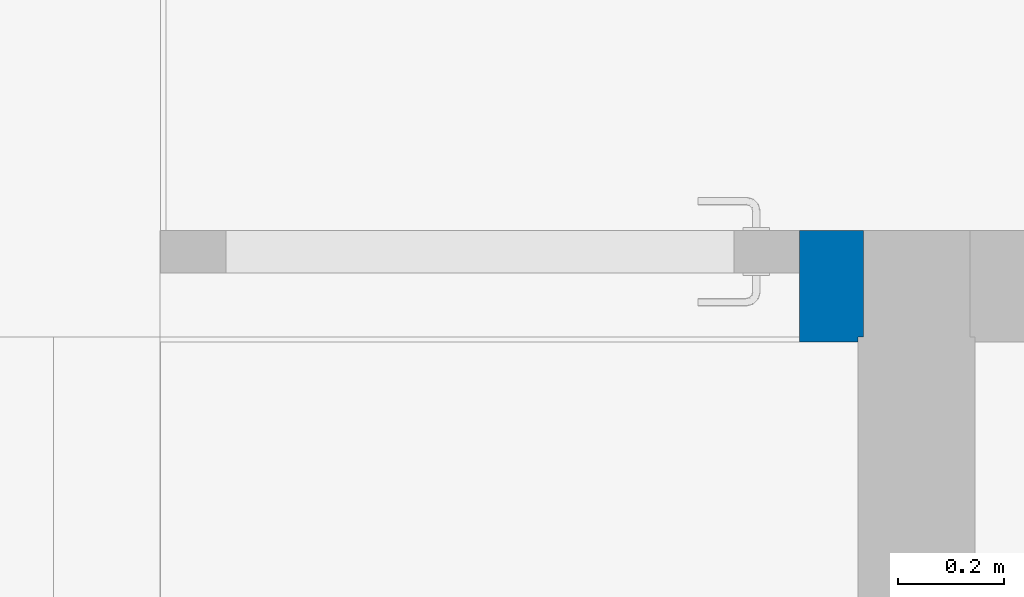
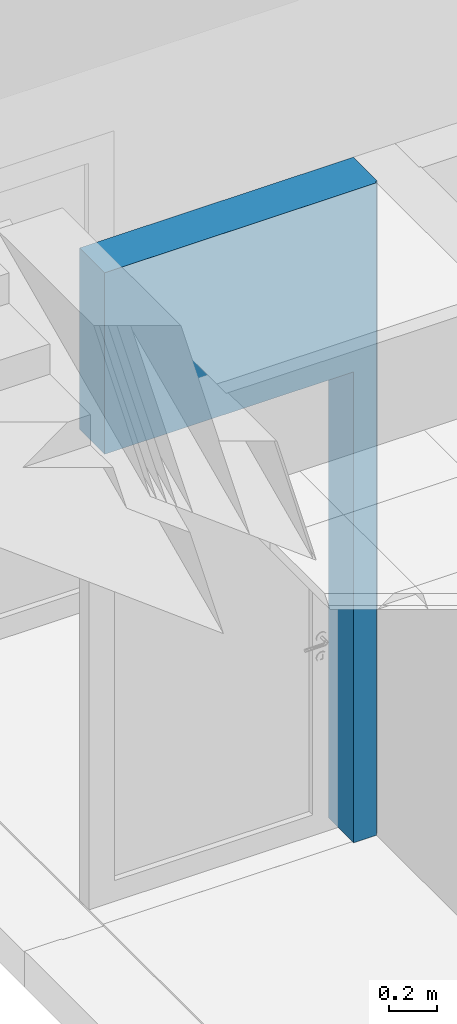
# One storey, part 115 of 246: 1 wall, 1 opening.
"""IFC2X3 building model written with IfcOpenShell, lengths in millimetres."""

from ifc_helpers import new_model, entity, si_unit, converted_unit, derived_unit, money_unit, direction, frame, origin_with_axes, place, context, subcontext, project, spatial, faceted_brep, material, material_list, type_object, element, save


model = new_model("IFC2X3")

# Units and contexts
model_context = context("Model", 3, precision=0.01, world=origin_with_axes(), true_north=direction((0.0, 1.0)))
body_context = subcontext(model_context, "Body", "Model", "MODEL_VIEW")
ifc_project = project(units=[si_unit("LENGTHUNIT", "METRE", prefix="MILLI"), si_unit("AREAUNIT", "SQUARE_METRE"), si_unit("VOLUMEUNIT", "CUBIC_METRE"), converted_unit("PLANEANGLEUNIT", "DEGREE", entity("IfcPlaneAngleMeasure", 0.0174532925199), si_unit("PLANEANGLEUNIT", "RADIAN"), dimensions=[0, 0, 0, 0, 0, 0, 0]), si_unit("SOLIDANGLEUNIT", "STERADIAN"), money_unit("EUR"), converted_unit("TIMEUNIT", "Year", entity("IfcTimeMeasure", 31556926.0), si_unit("TIMEUNIT", "SECOND"), dimensions=[0, 0, 1, 0, 0, 0, 0]), si_unit("MASSUNIT", "GRAM", prefix="KILO"), si_unit("THERMODYNAMICTEMPERATUREUNIT", "DEGREE_CELSIUS"), si_unit("LUMINOUSINTENSITYUNIT", "LUMEN"), si_unit("ENERGYUNIT", "JOULE", prefix="MEGA"), derived_unit("THERMALCONDUCTANCEUNIT", [(si_unit("POWERUNIT", "WATT"), 1), (si_unit("LENGTHUNIT", "METRE"), -1), (si_unit("THERMODYNAMICTEMPERATUREUNIT", "KELVIN"), -1)]), derived_unit("SPECIFICHEATCAPACITYUNIT", [(si_unit("ENERGYUNIT", "JOULE"), 1), (si_unit("MASSUNIT", "GRAM", prefix="KILO"), -1), (si_unit("THERMODYNAMICTEMPERATUREUNIT", "KELVIN"), -1)]), derived_unit("MASSDENSITYUNIT", [(si_unit("MASSUNIT", "GRAM", prefix="KILO"), 1), (si_unit("VOLUMEUNIT", "CUBIC_METRE"), -1)])], contexts=[model_context])

# Site, building, storey
site_placement = place(None, origin_with_axes())
site = spatial("IfcSite", under=ifc_project, at=site_placement, Name="L.Koidula tn 11b", CompositionType="ELEMENT")
building_placement = place(site_placement, origin_with_axes())
building = spatial("IfcBuilding", under=site, at=building_placement, Name="Rakvere Riigigümnaasium", CompositionType="ELEMENT")
storey_placement = place(building_placement, origin_with_axes())
storey = spatial("IfcBuildingStorey", under=building, at=storey_placement, Name="1.korrus 0,00", CompositionType="ELEMENT", Elevation=0.0)

# Wall, opening
ifc_material_1 = material(Name="siseviimistlus-seinad")
ifc_material_2 = material(Name="Betoon element / plaat")
ifc_material_list = material_list([ifc_material_1, ifc_material_2])
wall_type = type_object("IfcWallType", Name="SS-01-1 210", PredefinedType="NOTDEFINED")
wall_placement = place(storey_placement, frame((36820.0000005, 13280.4408781, 0.0), z_axis=(0.0, 0.0, 1.0), x_axis=(-1.0, -2.68268180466e-07, 0.0)))
wall = element("IfcWall", 1, at=wall_placement, inside=storey, type_object=wall_type, material=ifc_material_list, Name="Sisesein", context=body_context, shape_type="Brep", body=[
    faceted_brep([(119.999947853, 200.0, 2400.0), (1319.99994835, 200.0, 2400.0), (1320.000002, 200.0, 3325.0), (10.0000536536, 200.0, 3325.0), (10.0000536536, 200.0, 0.0), (119.999947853, 200.0, 0.0), (119.999947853, 210.0, 2400.0), (1319.99994835, 210.0, 2400.0), (1320.00000468, 210.0, 3325.0), (10.0000563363, 210.0, 3325.0), (10.0000563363, 210.0, 0.0), (119.999947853, 210.0, 0.0)], [[[0, 1, 2, 3, 4, 5]], [[1, 0, 6, 7]], [[1, 7, 8, 2]], [[3, 2, 8, 9]], [[9, 10, 4, 3]], [[11, 5, 4, 10]], [[0, 5, 11, 6]], [[6, 11, 10, 9, 8, 7]]]),
    faceted_brep([(119.999947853, 0.0, 2400.0), (1319.99994835, 0.0, 2400.0), (1319.99994835, 0.0, 3325.0), (0.0, 0.0, 3325.0), (0.0, 0.0, 0.0), (119.999947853, 0.0, 0.0), (1319.99994835, 80.0, 2400.0), (119.999947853, 200.0, 2400.0), (1319.99994835, 200.0, 2400.0), (1320.000002, 200.0, 3325.0), (5.36536362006e-05, 200.0, 3325.0), (5.36536362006e-05, 200.0, 0.0), (119.999947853, 80.0, 0.0), (119.999947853, 200.0, 0.0)], [[[0, 1, 2, 3, 4, 5]], [[6, 1, 0, 7, 8]], [[1, 6, 8, 9, 2]], [[10, 3, 2, 9]], [[4, 3, 10, 11]], [[12, 5, 4, 11, 13]], [[0, 5, 12, 13, 7]], [[10, 9, 8, 7, 13, 11]]]),
])
opening_placement = place(wall_placement, frame((719.9999481, 0.0, 0.0), z_axis=(0.0, 0.0, 1.0), x_axis=(1.0, 0.0, 0.0)))
element("IfcOpeningElement", 2, at=opening_placement, cuts=wall, Name="SU-016", context=body_context, shape_type="Brep", body=[
    faceted_brep([(600.000000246, 420.0, 0.0), (600.000000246, 420.0, 2400.0), (600.000000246, 80.0, 2400.0), (600.000000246, 80.0, 0.0), (-600.000000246, 420.0, 0.0), (-600.000000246, 420.0, 2400.0), (-600.000000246, 80.0, 2400.0), (-600.000000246, 80.0, 0.0)], [[[0, 1, 2, 3]], [[0, 4, 5, 1]], [[1, 5, 6, 2]], [[3, 2, 6, 7]], [[4, 0, 3, 7]], [[5, 4, 7, 6]]]),
    faceted_brep([(600.000000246, -210.0, 2400.0), (600.000000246, -210.0, 0.0), (600.000000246, 80.0, 0.0), (600.000000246, 80.0, 2400.0), (-600.000000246, -210.0, 2400.0), (-600.000000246, -210.0, 0.0), (-600.000000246, 80.0, 0.0), (-600.000000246, 80.0, 2400.0)], [[[0, 1, 2, 3]], [[0, 4, 5, 1]], [[1, 5, 6, 2]], [[3, 2, 6, 7]], [[4, 0, 3, 7]], [[5, 4, 7, 6]]]),
])

save(model, "model.ifc")
